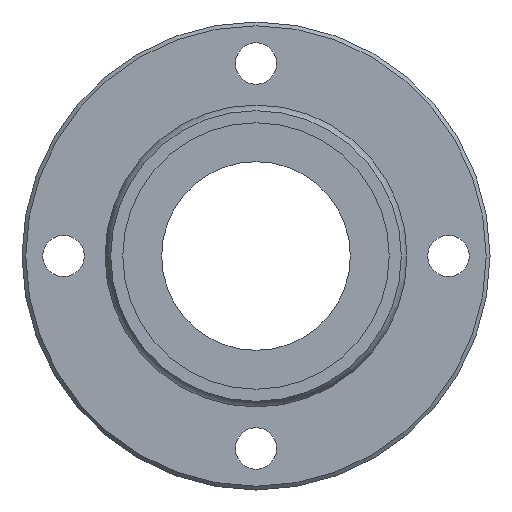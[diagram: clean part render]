
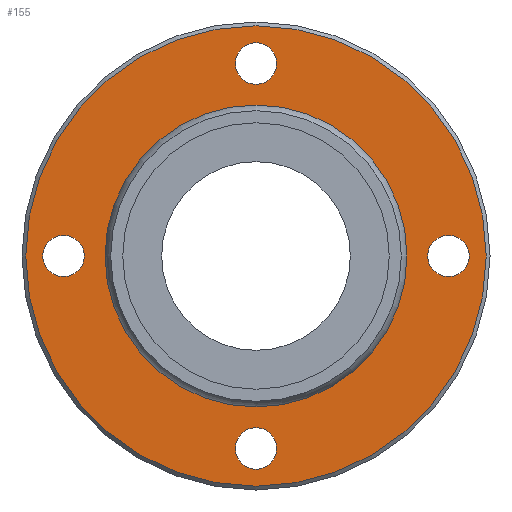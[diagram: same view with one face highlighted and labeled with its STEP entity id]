
A CAD part, left-side view. The second image highlights one B-rep face of the part: STEP entity #155.
In plain terms, the highlighted planar face has unit normal (-1, 0, 0).
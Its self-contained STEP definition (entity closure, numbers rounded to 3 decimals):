
#60=CARTESIAN_POINT('',(13.,0.,30.5));
#61=VERTEX_POINT('',#60);
#62=CARTESIAN_POINT('',(13.,0.0,0.0));
#63=DIRECTION('',(1.0,0.0,0.0));
#64=DIRECTION('',(0.0,0.0,-1.0));
#65=AXIS2_PLACEMENT_3D('',#62,#63,#64);
#66=CIRCLE('',#65,30.5);
#67=EDGE_CURVE('',#61,#61,#66,.T.);
#92=CARTESIAN_POINT('',(13.,0.0,25.282));
#93=DIRECTION('',(-1.0,0.0,0.0));
#94=DIRECTION('',(0.0,0.0,1.0));
#95=AXIS2_PLACEMENT_3D('',#92,#93,#94);
#96=PLANE('',#95);
#97=ORIENTED_EDGE('',*,*,#67,.F.);
#98=EDGE_LOOP('',(#97));
#99=FACE_OUTER_BOUND('',#98,.T.);
#100=CARTESIAN_POINT('',(13.,0.0,19.564));
#101=VERTEX_POINT('',#100);
#102=CARTESIAN_POINT('',(13.,0.0,0.0));
#103=DIRECTION('',(-1.0,0.0,0.0));
#104=DIRECTION('',(0.0,0.0,1.0));
#105=AXIS2_PLACEMENT_3D('',#102,#103,#104);
#106=CIRCLE('',#105,19.564);
#107=EDGE_CURVE('',#101,#101,#106,.T.);
#108=ORIENTED_EDGE('',*,*,#107,.F.);
#109=EDGE_LOOP('',(#108));
#110=FACE_BOUND('',#109,.T.);
#111=CARTESIAN_POINT('',(13.,22.75,0.));
#112=VERTEX_POINT('',#111);
#113=CARTESIAN_POINT('',(13.,25.5,0.));
#114=DIRECTION('',(1.0,0.0,0.0));
#115=DIRECTION('',(0.0,1.0,0.0));
#116=AXIS2_PLACEMENT_3D('',#113,#114,#115);
#117=CIRCLE('',#116,2.75);
#118=EDGE_CURVE('',#112,#112,#117,.T.);
#119=ORIENTED_EDGE('',*,*,#118,.T.);
#120=EDGE_LOOP('',(#119));
#121=FACE_BOUND('',#120,.T.);
#122=CARTESIAN_POINT('',(13.,-28.25,0.));
#123=VERTEX_POINT('',#122);
#124=CARTESIAN_POINT('',(13.,-25.5,0.0));
#125=DIRECTION('',(1.0,0.0,0.0));
#126=DIRECTION('',(0.0,1.0,0.0));
#127=AXIS2_PLACEMENT_3D('',#124,#125,#126);
#128=CIRCLE('',#127,2.75);
#129=EDGE_CURVE('',#123,#123,#128,.T.);
#130=ORIENTED_EDGE('',*,*,#129,.T.);
#131=EDGE_LOOP('',(#130));
#132=FACE_BOUND('',#131,.T.);
#133=CARTESIAN_POINT('',(13.,-2.75,25.5));
#134=VERTEX_POINT('',#133);
#135=CARTESIAN_POINT('',(13.,0.,25.5));
#136=DIRECTION('',(1.0,0.0,0.0));
#137=DIRECTION('',(0.0,1.0,0.0));
#138=AXIS2_PLACEMENT_3D('',#135,#136,#137);
#139=CIRCLE('',#138,2.75);
#140=EDGE_CURVE('',#134,#134,#139,.T.);
#141=ORIENTED_EDGE('',*,*,#140,.T.);
#142=EDGE_LOOP('',(#141));
#143=FACE_BOUND('',#142,.T.);
#144=CARTESIAN_POINT('',(13.,-2.75,-25.5));
#145=VERTEX_POINT('',#144);
#146=CARTESIAN_POINT('',(13.,0.,-25.5));
#147=DIRECTION('',(1.0,0.0,0.0));
#148=DIRECTION('',(0.0,1.0,0.0));
#149=AXIS2_PLACEMENT_3D('',#146,#147,#148);
#150=CIRCLE('',#149,2.75);
#151=EDGE_CURVE('',#145,#145,#150,.T.);
#152=ORIENTED_EDGE('',*,*,#151,.T.);
#153=EDGE_LOOP('',(#152));
#154=FACE_BOUND('',#153,.T.);
#155=ADVANCED_FACE('',(#99,#110,#121,#132,#143,#154),#96,.T.);
